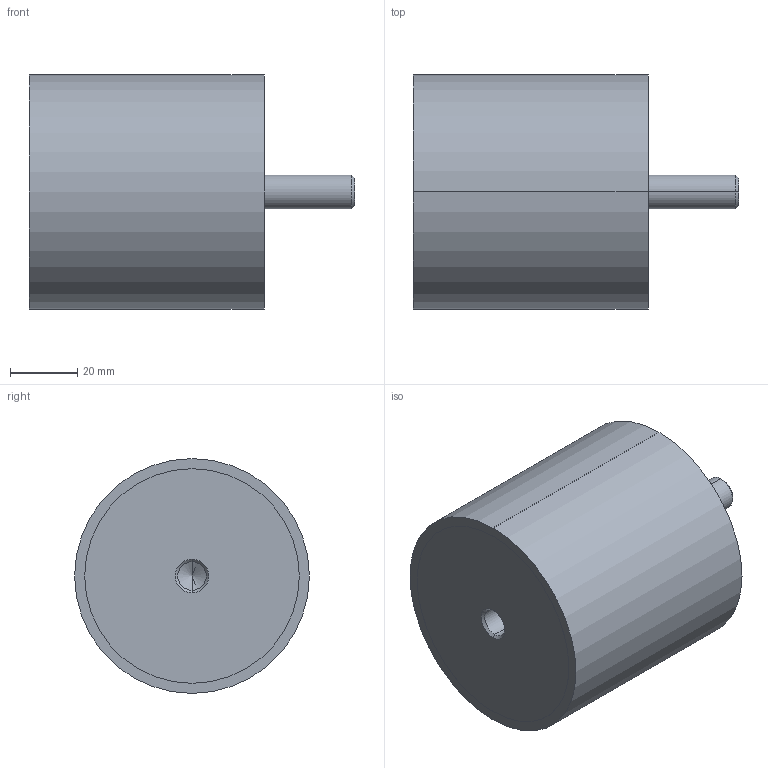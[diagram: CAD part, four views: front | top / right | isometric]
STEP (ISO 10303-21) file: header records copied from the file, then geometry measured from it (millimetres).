
FILE_DESCRIPTION (( 'STEP AP214' ), '1' );
FILE_NAME ('351-70-70-M10-ES-70.step', '2025-07-23T09:43:37', ( '' ), ( '' ), 'SwSTEP 2.0', 'SolidWorks 2022', '' );
FILE_SCHEMA (( 'AUTOMOTIVE_DESIGN' ));
Length unit declared in the file: millimetre
Products named in the file (1): 351-70-70-M10-ES-70
Bounding box: 97 x 70 x 70 mm (x, y, z)
Volume: 270748.1 mm3; surface area: 24220.7 mm2
Topology: 1 solids, 1 shells, 24 faces, 48 edges, 29 vertices
Faces by surface type: cylinder 12, cone 6, plane 6
Entity records: 740 total; most frequent: DIRECTION 124, CARTESIAN_POINT 100, ORIENTED_EDGE 92, AXIS2_PLACEMENT_3D 53, EDGE_CURVE 46, EDGE_LOOP 29, VERTEX_POINT 29, CIRCLE 28
